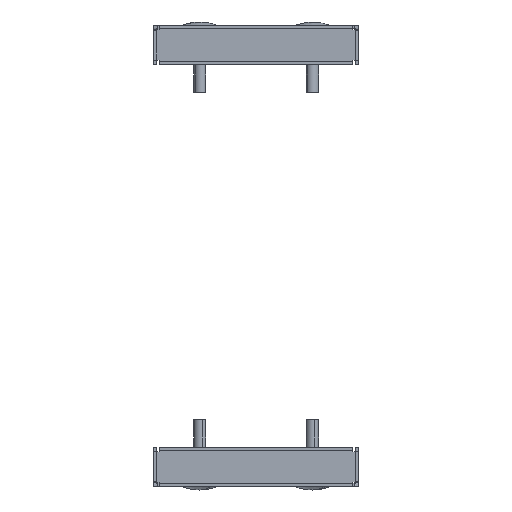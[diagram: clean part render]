
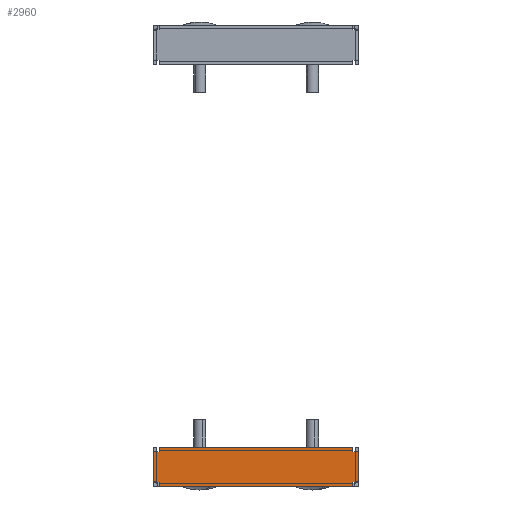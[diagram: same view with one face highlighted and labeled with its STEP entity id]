
A CAD part, left-side view. The second image highlights one B-rep face of the part: STEP entity #2960.
In plain terms, the highlighted planar face has unit normal (-1, 0, 0).
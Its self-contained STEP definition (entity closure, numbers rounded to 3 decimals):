
#50 = CARTESIAN_POINT ( 'NONE',  ( -399.5, -50., 0.777 ) ) ;
#78 = CARTESIAN_POINT ( 'NONE',  ( -399.5, 0., 15.4 ) ) ;
#158 = ORIENTED_EDGE ( 'NONE', *, *, #9623, .F. ) ;
#282 = VECTOR ( 'NONE', #3683, 1000. ) ;
#322 = EDGE_CURVE ( 'NONE', #3425, #7262, #3362, .T. ) ;
#358 = VERTEX_POINT ( 'NONE', #8955 ) ;
#396 = PLANE ( 'NONE',  #2357 ) ;
#410 = EDGE_CURVE ( 'NONE', #4294, #3213, #7936, .T. ) ;
#456 = VERTEX_POINT ( 'NONE', #6124 ) ;
#482 = CARTESIAN_POINT ( 'NONE',  ( -399.5, -50., 0.777 ) ) ;
#607 = CARTESIAN_POINT ( 'NONE',  ( -399.5, 47.3, 15.4 ) ) ;
#661 = CARTESIAN_POINT ( 'NONE',  ( -399.5, -47.3, 15.4 ) ) ;
#723 = CARTESIAN_POINT ( 'NONE',  ( -399.5, 50., 15.4 ) ) ;
#743 = CARTESIAN_POINT ( 'NONE',  ( -399.5, 48.599, 0.674 ) ) ;
#870 = LINE ( 'NONE', #78, #3161 ) ;
#966 = VECTOR ( 'NONE', #7923, 1000. ) ;
#1053 = VERTEX_POINT ( 'NONE', #5815 ) ;
#1136 = CARTESIAN_POINT ( 'NONE',  ( -399.5, 47.3, 17.5 ) ) ;
#1192 = VERTEX_POINT ( 'NONE', #2949 ) ;
#1355 = EDGE_LOOP ( 'NONE', ( #1376, #9744, #5517, #4422, #6370, #2178, #4510, #8246, #7373, #4220, #2106, #158, #9388, #5191, #1727, #2944 ) ) ;
#1362 = LINE ( 'NONE', #7393, #8622 ) ;
#1376 = ORIENTED_EDGE ( 'NONE', *, *, #9225, .T. ) ;
#1411 = DIRECTION ( 'NONE',  ( 0., 0., -1. ) ) ;
#1566 = CARTESIAN_POINT ( 'NONE',  ( -399.5, 47.3, -1.5 ) ) ;
#1668 = CARTESIAN_POINT ( 'NONE',  ( -399.5, -47.3, 15.4 ) ) ;
#1727 = ORIENTED_EDGE ( 'NONE', *, *, #2542, .F. ) ;
#1728 = DIRECTION ( 'NONE',  ( 0., -1., 0. ) ) ;
#1789 = VECTOR ( 'NONE', #9560, 1000. ) ;
#2026 = DIRECTION ( 'NONE',  ( 0., 1., 0. ) ) ;
#2096 = CARTESIAN_POINT ( 'NONE',  ( -399.5, -47.3, 0.6 ) ) ;
#2106 = ORIENTED_EDGE ( 'NONE', *, *, #9681, .T. ) ;
#2178 = ORIENTED_EDGE ( 'NONE', *, *, #8771, .T. ) ;
#2238 = EDGE_CURVE ( 'NONE', #4062, #4294, #1362, .T. ) ;
#2248 = CARTESIAN_POINT ( 'NONE',  ( -399.5, 49.649, 0.758 ) ) ;
#2316 = LINE ( 'NONE', #3923, #7072 ) ;
#2324 = VERTEX_POINT ( 'NONE', #1566 ) ;
#2357 = AXIS2_PLACEMENT_3D ( 'NONE', #3500, #8148, #3452 ) ;
#2542 = EDGE_CURVE ( 'NONE', #1192, #4661, #4258, .T. ) ;
#2710 = VECTOR ( 'NONE', #3062, 1000. ) ;
#2937 = VERTEX_POINT ( 'NONE', #5657 ) ;
#2944 = ORIENTED_EDGE ( 'NONE', *, *, #6103, .F. ) ;
#2949 = CARTESIAN_POINT ( 'NONE',  ( -399.5, -50., 15.4 ) ) ;
#2960 = ADVANCED_FACE ( 'NONE', ( #5862 ), #396, .F. ) ;
#3062 = DIRECTION ( 'NONE',  ( 0., -1., 0. ) ) ;
#3094 = CARTESIAN_POINT ( 'NONE',  ( -399.5, 50., 0.777 ) ) ;
#3113 = EDGE_CURVE ( 'NONE', #456, #4661, #6330, .T. ) ;
#3161 = VECTOR ( 'NONE', #1728, 1000. ) ;
#3213 = VERTEX_POINT ( 'NONE', #8500 ) ;
#3362 = LINE ( 'NONE', #9529, #9237 ) ;
#3400 = DIRECTION ( 'NONE',  ( 0., -1., 0. ) ) ;
#3425 = VERTEX_POINT ( 'NONE', #1136 ) ;
#3452 = DIRECTION ( 'NONE',  ( 0., 0., -1. ) ) ;
#3500 = CARTESIAN_POINT ( 'NONE',  ( -399.5, 0., 0. ) ) ;
#3513 = VECTOR ( 'NONE', #8794, 1000. ) ;
#3666 = VECTOR ( 'NONE', #8919, 1000. ) ;
#3683 = DIRECTION ( 'NONE',  ( 0., -1., 0. ) ) ;
#3727 = DIRECTION ( 'NONE',  ( 0., 0., 1. ) ) ;
#3812 = CARTESIAN_POINT ( 'NONE',  ( -399.5, 49.299, 0.734 ) ) ;
#3861 = VERTEX_POINT ( 'NONE', #5684 ) ;
#3923 = CARTESIAN_POINT ( 'NONE',  ( -399.5, -47.9, 0.6 ) ) ;
#3938 = CARTESIAN_POINT ( 'NONE',  ( -399.5, 47.9, 0.6 ) ) ;
#4062 = VERTEX_POINT ( 'NONE', #723 ) ;
#4220 = ORIENTED_EDGE ( 'NONE', *, *, #6547, .T. ) ;
#4258 = LINE ( 'NONE', #5302, #7813 ) ;
#4294 = VERTEX_POINT ( 'NONE', #5112 ) ;
#4422 = ORIENTED_EDGE ( 'NONE', *, *, #6246, .F. ) ;
#4510 = ORIENTED_EDGE ( 'NONE', *, *, #2238, .T. ) ;
#4518 = DIRECTION ( 'NONE',  ( 0., 1., 0. ) ) ;
#4661 = VERTEX_POINT ( 'NONE', #482 ) ;
#4739 = LINE ( 'NONE', #8643, #3513 ) ;
#5071 = DIRECTION ( 'NONE',  ( 0., 0., -1. ) ) ;
#5112 = CARTESIAN_POINT ( 'NONE',  ( -399.5, 50., 0.777 ) ) ;
#5191 = ORIENTED_EDGE ( 'NONE', *, *, #3113, .T. ) ;
#5222 = CARTESIAN_POINT ( 'NONE',  ( -399.5, 0., -1.5 ) ) ;
#5251 = EDGE_CURVE ( 'NONE', #358, #6260, #6506, .T. ) ;
#5283 = CARTESIAN_POINT ( 'NONE',  ( -399.5, 47.9, 15.4 ) ) ;
#5302 = CARTESIAN_POINT ( 'NONE',  ( -399.5, -50., 0. ) ) ;
#5361 = CARTESIAN_POINT ( 'NONE',  ( -399.5, 47.9, 0.6 ) ) ;
#5420 = CARTESIAN_POINT ( 'NONE',  ( -399.5, -47.3, 0. ) ) ;
#5459 = VECTOR ( 'NONE', #3727, 1000. ) ;
#5500 = CARTESIAN_POINT ( 'NONE',  ( -399.5, 48.249, 0.637 ) ) ;
#5517 = ORIENTED_EDGE ( 'NONE', *, *, #322, .F. ) ;
#5657 = CARTESIAN_POINT ( 'NONE',  ( -399.5, -47.9, 15.4 ) ) ;
#5684 = CARTESIAN_POINT ( 'NONE',  ( -399.5, 47.3, 0.6 ) ) ;
#5702 = VERTEX_POINT ( 'NONE', #2096 ) ;
#5815 = CARTESIAN_POINT ( 'NONE',  ( -399.5, -47.3, -1.5 ) ) ;
#5862 = FACE_OUTER_BOUND ( 'NONE', #1355, .T. ) ;
#5916 = CARTESIAN_POINT ( 'NONE',  ( -399.5, -48.249, 0.637 ) ) ;
#6103 = EDGE_CURVE ( 'NONE', #2937, #1192, #870, .T. ) ;
#6124 = CARTESIAN_POINT ( 'NONE',  ( -399.5, -47.9, 0.6 ) ) ;
#6129 = CARTESIAN_POINT ( 'NONE',  ( -399.5, -48.599, 0.674 ) ) ;
#6246 = EDGE_CURVE ( 'NONE', #6260, #3425, #6739, .T. ) ;
#6260 = VERTEX_POINT ( 'NONE', #607 ) ;
#6330 = B_SPLINE_CURVE_WITH_KNOTS ( 'NONE', 3,
 ( #9868, #5916, #6129, #6733, #9814, #50 ),
 .UNSPECIFIED., .F., .F.,
 ( 4, 2, 4 ),
 ( 0.006, 0.007, 0.008 ),
 .UNSPECIFIED. ) ;
#6370 = ORIENTED_EDGE ( 'NONE', *, *, #5251, .F. ) ;
#6506 = LINE ( 'NONE', #5283, #282 ) ;
#6547 = EDGE_CURVE ( 'NONE', #3861, #2324, #4739, .T. ) ;
#6563 = CARTESIAN_POINT ( 'NONE',  ( -399.5, -47.9, 15.4 ) ) ;
#6592 = VECTOR ( 'NONE', #1411, 1000. ) ;
#6733 = CARTESIAN_POINT ( 'NONE',  ( -399.5, -49.299, 0.734 ) ) ;
#6739 = LINE ( 'NONE', #8256, #3666 ) ;
#6844 = LINE ( 'NONE', #5420, #6592 ) ;
#7072 = VECTOR ( 'NONE', #4518, 1000. ) ;
#7227 = LINE ( 'NONE', #7944, #1789 ) ;
#7262 = VERTEX_POINT ( 'NONE', #8369 ) ;
#7371 = VERTEX_POINT ( 'NONE', #1668 ) ;
#7373 = ORIENTED_EDGE ( 'NONE', *, *, #9531, .T. ) ;
#7393 = CARTESIAN_POINT ( 'NONE',  ( -399.5, 50., 0. ) ) ;
#7550 = LINE ( 'NONE', #5222, #2710 ) ;
#7813 = VECTOR ( 'NONE', #7931, 1000. ) ;
#7923 = DIRECTION ( 'NONE',  ( 0., -1., 0. ) ) ;
#7931 = DIRECTION ( 'NONE',  ( 0., 0., -1. ) ) ;
#7936 = B_SPLINE_CURVE_WITH_KNOTS ( 'NONE', 3,
 ( #3094, #2248, #3812, #743, #5500, #5361 ),
 .UNSPECIFIED., .F., .F.,
 ( 4, 2, 4 ),
 ( 0.006, 0.007, 0.008 ),
 .UNSPECIFIED. ) ;
#7944 = CARTESIAN_POINT ( 'NONE',  ( -399.5, 47.9, 15.4 ) ) ;
#8148 = DIRECTION ( 'NONE',  ( 1., 0., 0. ) ) ;
#8181 = LINE ( 'NONE', #6563, #9820 ) ;
#8246 = ORIENTED_EDGE ( 'NONE', *, *, #410, .T. ) ;
#8256 = CARTESIAN_POINT ( 'NONE',  ( -399.5, 47.3, 0. ) ) ;
#8369 = CARTESIAN_POINT ( 'NONE',  ( -399.5, -47.3, 17.5 ) ) ;
#8500 = CARTESIAN_POINT ( 'NONE',  ( -399.5, 47.9, 0.6 ) ) ;
#8576 = LINE ( 'NONE', #3938, #966 ) ;
#8622 = VECTOR ( 'NONE', #5071, 1000. ) ;
#8643 = CARTESIAN_POINT ( 'NONE',  ( -399.5, 47.3, 0.6 ) ) ;
#8771 = EDGE_CURVE ( 'NONE', #358, #4062, #7227, .T. ) ;
#8794 = DIRECTION ( 'NONE',  ( 0., 0., -1. ) ) ;
#8919 = DIRECTION ( 'NONE',  ( 0., 0., 1. ) ) ;
#8955 = CARTESIAN_POINT ( 'NONE',  ( -399.5, 47.9, 15.4 ) ) ;
#9225 = EDGE_CURVE ( 'NONE', #2937, #7371, #8181, .T. ) ;
#9237 = VECTOR ( 'NONE', #3400, 1000. ) ;
#9272 = LINE ( 'NONE', #661, #5459 ) ;
#9388 = ORIENTED_EDGE ( 'NONE', *, *, #9631, .F. ) ;
#9529 = CARTESIAN_POINT ( 'NONE',  ( -399.5, 0., 17.5 ) ) ;
#9531 = EDGE_CURVE ( 'NONE', #3213, #3861, #8576, .T. ) ;
#9560 = DIRECTION ( 'NONE',  ( 0., 1., 0. ) ) ;
#9623 = EDGE_CURVE ( 'NONE', #5702, #1053, #6844, .T. ) ;
#9631 = EDGE_CURVE ( 'NONE', #456, #5702, #2316, .T. ) ;
#9681 = EDGE_CURVE ( 'NONE', #2324, #1053, #7550, .T. ) ;
#9694 = EDGE_CURVE ( 'NONE', #7371, #7262, #9272, .T. ) ;
#9744 = ORIENTED_EDGE ( 'NONE', *, *, #9694, .T. ) ;
#9814 = CARTESIAN_POINT ( 'NONE',  ( -399.5, -49.649, 0.758 ) ) ;
#9820 = VECTOR ( 'NONE', #2026, 1000. ) ;
#9868 = CARTESIAN_POINT ( 'NONE',  ( -399.5, -47.9, 0.6 ) ) ;
